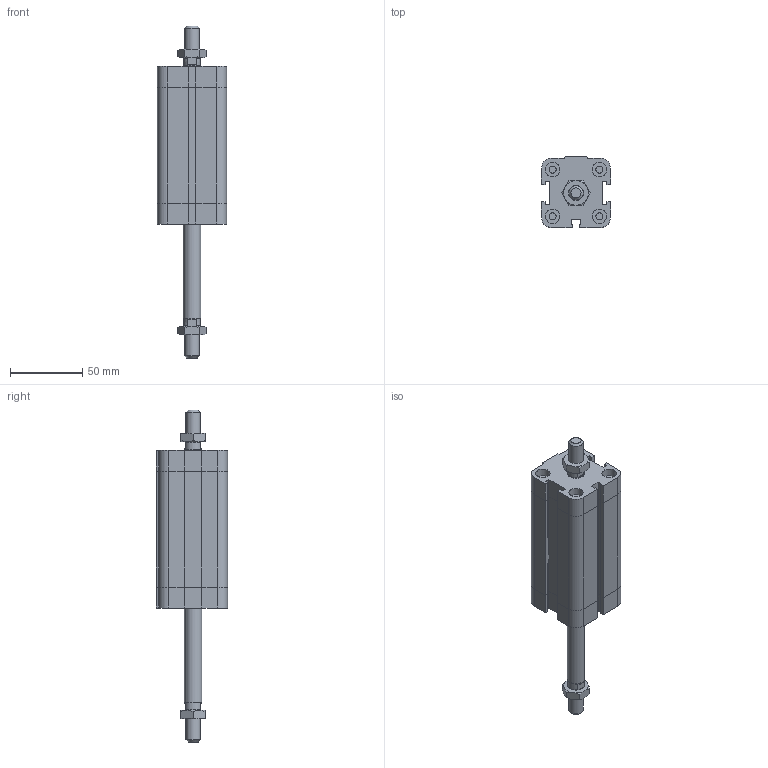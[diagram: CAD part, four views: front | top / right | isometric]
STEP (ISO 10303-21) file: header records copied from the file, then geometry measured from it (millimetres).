
FILE_DESCRIPTION((''),'2;1');
FILE_NAME('I:\Area Tecnica\Disegni\VARIE-3D\Componenti\EUROPE\15##_###_####_04_#\1561_32_0065_04_1.iam.stp','2009-04-20T14:45:18',(''),(''),'Autodesk Inventor 2009','Autodesk Inventor 2009','');
FILE_SCHEMA(('AUTOMOTIVE_DESIGN { 1 0 10303 214 1 1 1 1 }'));
Length unit declared in the file: millimetre
Products named in the file (4): 1561_32_0065_04_1; 1561_32_0065_03_1_C; 1561_32_0065_04_1_S; DBFM10
Assembly tree (4 placements, depth 2):
  1561_32_0065_04_1
    1561_32_0065_03_1_C
    1561_32_0065_04_1_S
    DBFM10  x2
Bounding box: 48 x 49.5 x 230.5 mm (x, y, z)
Volume: 237232 mm3; surface area: 47419.3 mm2
Topology: 4 solids, 4 shells, 222 faces, 483 edges, 289 vertices
Faces by surface type: plane 129, cone 35, bspline 33, cylinder 25
Full cylindrical faces by diameter (mm): 4.917 x4, 8.8 x1, 10 x5, 11.7 x2, 12 x1
Entity records: 5450 total; most frequent: CARTESIAN_POINT 1222, DIRECTION 802, ORIENTED_EDGE 772, EDGE_CURVE 386, AXIS2_PLACEMENT_3D 272, EDGE_LOOP 258, VECTOR 258, LINE 258
